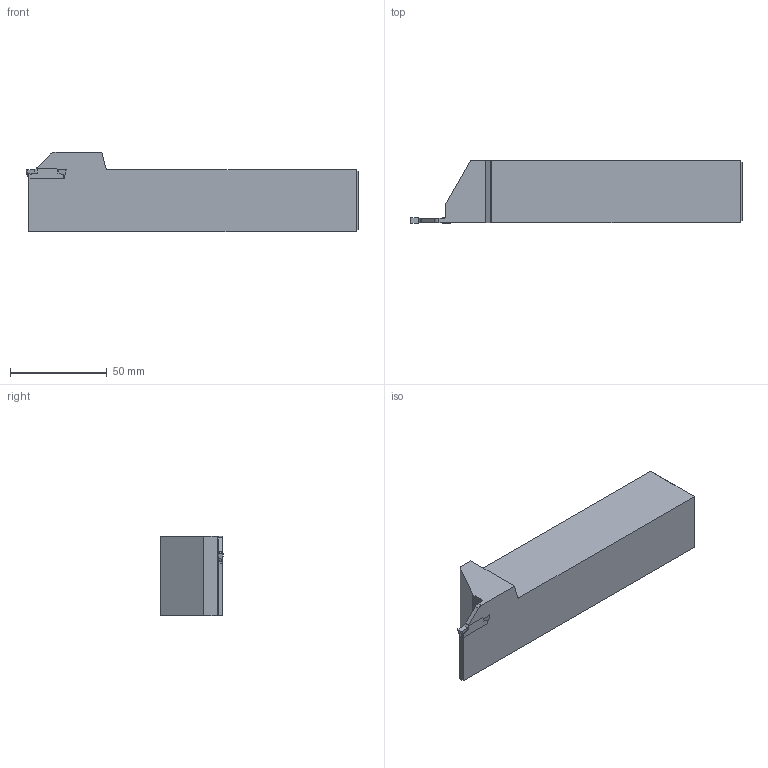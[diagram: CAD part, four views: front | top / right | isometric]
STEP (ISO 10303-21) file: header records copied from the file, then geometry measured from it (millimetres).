
FILE_DESCRIPTION(/* description */ (''),/* implementation_level */ '2;1');
FILE_NAME(/* name */ 'MGEHR3232-3-HAAS.stp',/* time_stamp */ '2021-10-14T10:04:09+09:00',/* author */ (''),/* organization */ (''),/* preprocessor_version */ 'ST-DEVELOPER v11',/* originating_system */ 'SIEMENS UGS NX 6.0',/* authorisation */ '');
FILE_SCHEMA (('CONFIG_CONTROL_DESIGN'));
Length unit declared in the file: millimetre
Products named in the file (1): user254Fxydi
Bounding box: 171.25 x 32.35 x 41 mm (x, y, z)
Volume: 158481.2 mm3; surface area: 23370.8 mm2
Topology: 2 solids, 2 shells, 57 faces, 151 edges, 98 vertices
Faces by surface type: plane 43, cylinder 10, extrusion 4
Entity records: 1951 total; most frequent: CARTESIAN_POINT 445, ORIENTED_EDGE 302, DIRECTION 279, EDGE_CURVE 151, VECTOR 123, LINE 119, VERTEX_POINT 98, AXIS2_PLACEMENT_3D 78
